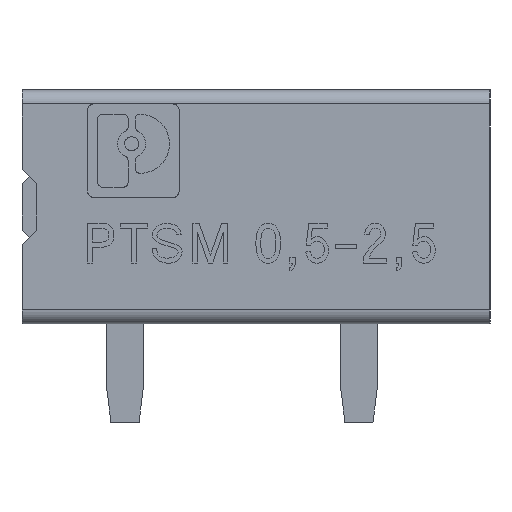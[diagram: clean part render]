
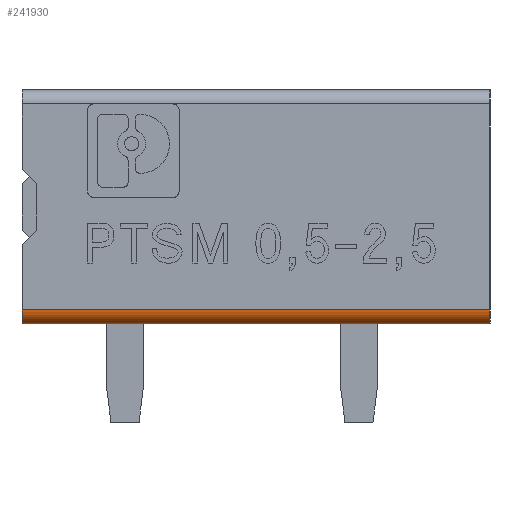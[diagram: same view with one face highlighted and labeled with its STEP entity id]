
A CAD part, left-side view. The second image highlights one B-rep face of the part: STEP entity #241930.
In plain terms, the highlighted cylindrical face has radius 0.3 mm (diameter 0.6 mm), a partial arc.
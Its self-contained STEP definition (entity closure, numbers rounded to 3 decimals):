
#17370=CARTESIAN_POINT('',(-3.539,-16.922,0.05));
#17380=VERTEX_POINT('',#17370);
#17430=CARTESIAN_POINT('',(-3.539,-16.922,0.35));
#17440=DIRECTION('',(1.,0.,0.));
#17450=DIRECTION('',(0.,-1.,0.));
#17460=AXIS2_PLACEMENT_3D('',#17430,#17440,#17450);
#17470=CIRCLE('',#17460,0.3);
#17480=CARTESIAN_POINT('',(-3.539,-17.222,0.35));
#17490=VERTEX_POINT('',#17480);
#17500=EDGE_CURVE('',#17490,#17380,#17470,.T.);
#34170=CARTESIAN_POINT('',(-13.539,-16.922,0.05));
#34180=VERTEX_POINT('',#34170);
#34210=CARTESIAN_POINT('',(0.,-16.922,0.05));
#34220=DIRECTION('',(1.,0.,0.));
#34230=VECTOR('',#34220,1.);
#34240=LINE('',#34210,#34230);
#34250=EDGE_CURVE('',#34180,#17380,#34240,.T.);
#224600=CARTESIAN_POINT('',(0.,-17.222,0.35));
#224610=DIRECTION('',(1.,0.,0.));
#224620=VECTOR('',#224610,1.);
#224630=LINE('',#224600,#224620);
#224640=CARTESIAN_POINT('',(-13.539,-17.222,0.35));
#224650=VERTEX_POINT('',#224640);
#224660=EDGE_CURVE('',#224650,#17490,#224630,.T.);
#234630=CARTESIAN_POINT('',(-13.539,-16.922,0.35));
#234640=DIRECTION('',(1.,0.,0.));
#234650=DIRECTION('',(0.,-1.,0.));
#234660=AXIS2_PLACEMENT_3D('',#234630,#234640,#234650);
#234670=CIRCLE('',#234660,0.3);
#234680=EDGE_CURVE('',#224650,#34180,#234670,.T.);
#241820=CARTESIAN_POINT('',(0.,-16.922,0.35));
#241830=DIRECTION('',(1.,0.,0.));
#241840=DIRECTION('',(0.,-1.,0.));
#241850=AXIS2_PLACEMENT_3D('',#241820,#241830,#241840);
#241860=CYLINDRICAL_SURFACE('',#241850,0.3);
#241870=ORIENTED_EDGE('',*,*,#17500,.F.);
#241880=ORIENTED_EDGE('',*,*,#34250,.T.);
#241890=ORIENTED_EDGE('',*,*,#234680,.T.);
#241900=ORIENTED_EDGE('',*,*,#224660,.F.);
#241910=EDGE_LOOP('',(#241900,#241890,#241880,#241870));
#241920=FACE_OUTER_BOUND('',#241910,.T.);
#241930=ADVANCED_FACE('',(#241920),#241860,.T.);
